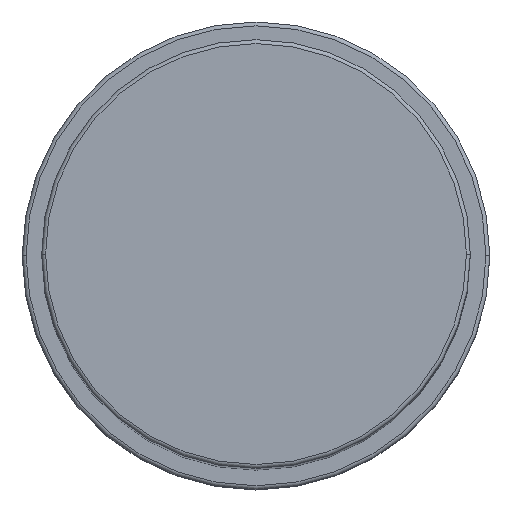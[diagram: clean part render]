
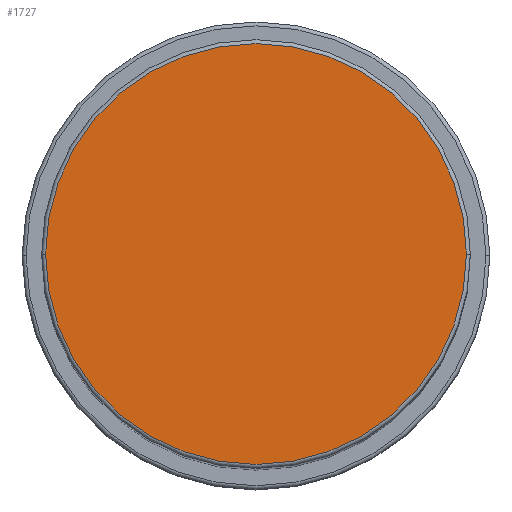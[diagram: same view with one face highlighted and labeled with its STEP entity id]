
A CAD part, top view. The second image highlights one B-rep face of the part: STEP entity #1727.
In plain terms, the highlighted planar face has unit normal (0, 0, 1).
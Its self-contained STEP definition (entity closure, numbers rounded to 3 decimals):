
#9 = DIRECTION ( 'NONE',  ( 1., 0., 0. ) ) ;
#107 = VERTEX_POINT ( 'NONE', #122 ) ;
#122 = CARTESIAN_POINT ( 'NONE',  ( 27., 0., 143. ) ) ;
#313 = EDGE_LOOP ( 'NONE', ( #1196, #466 ) ) ;
#363 = EDGE_CURVE ( 'NONE', #1895, #107, #1732, .T. ) ;
#416 = PLANE ( 'NONE',  #1621 ) ;
#466 = ORIENTED_EDGE ( 'NONE', *, *, #363, .T. ) ;
#494 = CARTESIAN_POINT ( 'NONE',  ( 0., 0., 143. ) ) ;
#619 = CARTESIAN_POINT ( 'NONE',  ( 0., 0., 143. ) ) ;
#628 = EDGE_CURVE ( 'NONE', #107, #1895, #707, .T. ) ;
#642 = AXIS2_PLACEMENT_3D ( 'NONE', #494, #958, #9 ) ;
#707 = CIRCLE ( 'NONE', #1687, 27. ) ;
#958 = DIRECTION ( 'NONE',  ( 0., 0., 1. ) ) ;
#1011 = DIRECTION ( 'NONE',  ( 0., 0., 1. ) ) ;
#1196 = ORIENTED_EDGE ( 'NONE', *, *, #628, .T. ) ;
#1395 = DIRECTION ( 'NONE',  ( 1., 0., 0. ) ) ;
#1484 = FACE_OUTER_BOUND ( 'NONE', #313, .T. ) ;
#1507 = DIRECTION ( 'NONE',  ( 1., 0., 0. ) ) ;
#1513 = DIRECTION ( 'NONE',  ( 0., 0., 1. ) ) ;
#1517 = CARTESIAN_POINT ( 'NONE',  ( -27., 0., 143. ) ) ;
#1621 = AXIS2_PLACEMENT_3D ( 'NONE', #1942, #1011, #1507 ) ;
#1687 = AXIS2_PLACEMENT_3D ( 'NONE', #619, #1513, #1395 ) ;
#1727 = ADVANCED_FACE ( 'NONE', ( #1484 ), #416, .T. ) ;
#1732 = CIRCLE ( 'NONE', #642, 27. ) ;
#1895 = VERTEX_POINT ( 'NONE', #1517 ) ;
#1942 = CARTESIAN_POINT ( 'NONE',  ( 0., 0., 143. ) ) ;
